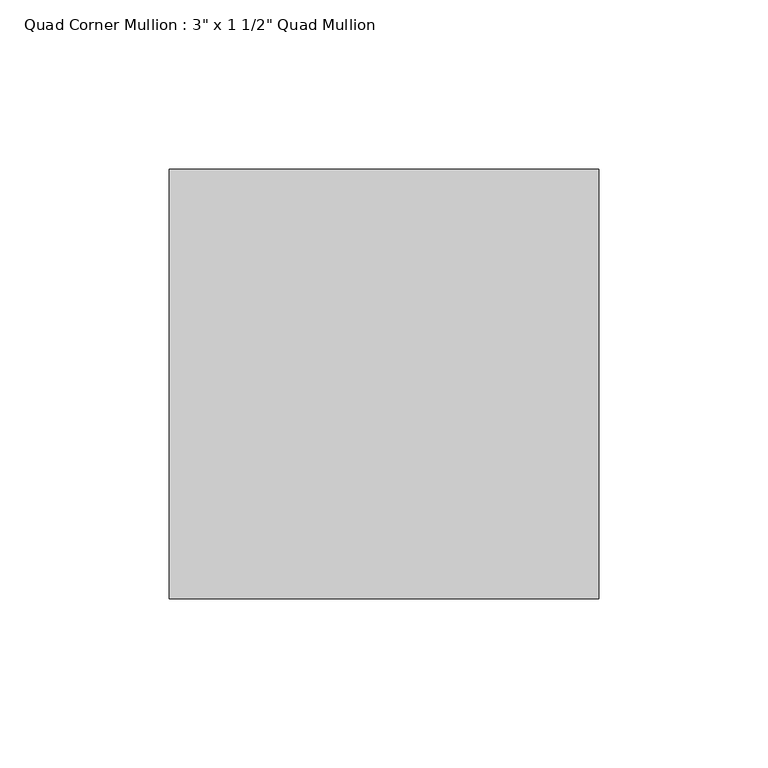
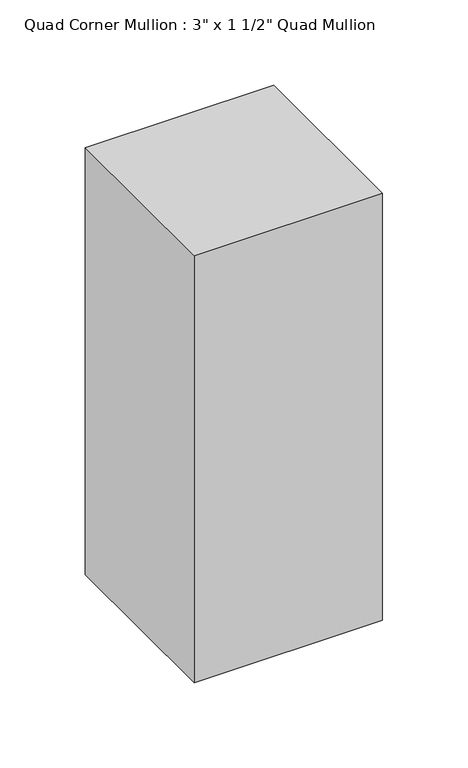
"""IFC4 building model written with IfcOpenShell, lengths in millimetres: member geometry."""

from ifc_helpers import new_model, si_unit, frame, origin, place, context, project, spatial, polyline, outline, extrude, source, transform, mapped, element, save


def member_61850fe3(model_context):
    return source(origin(), model_context, "Body", "SweptSolid", [
        extrude(outline(polyline([(63.5, 63.5), (63.5, -63.5), (-63.5, -63.5), (-63.5, 63.5), (63.5, 63.5)])), frame((0.0, 0.0, -304.8), z_axis=(0.0, 0.0, 1.0), x_axis=(1.0, 0.0, 0.0)), (0.0, 0.0, 1.0), 304.8),
    ])


if __name__ == "__main__":
    model = new_model("IFC4")
    model_context = context("Model", 3, world=origin())
    ifc_project = project(units=[si_unit("LENGTHUNIT", "METRE", prefix="MILLI")], contexts=[model_context])
    site = spatial("IfcSite", under=ifc_project)
    building = spatial("IfcBuilding", under=site)
    placement = place(None, origin())
    member_shape = member_61850fe3(model_context)
    element("IfcMember", 1, ObjectType="Quad Corner Mullion : 3\" x 1 1/2\" Quad Mullion", at=placement, inside=building, context=model_context, shape_type="MappedRepresentation", body=[
        mapped(member_shape, transform((0.0, 0.0, 0.0), x_axis=(1.0, 0.0, 0.0), y_axis=(0.0, 1.0, 0.0), z_axis=(0.0, 0.0, 1.0))),
    ])
    save(model, "model.ifc")
